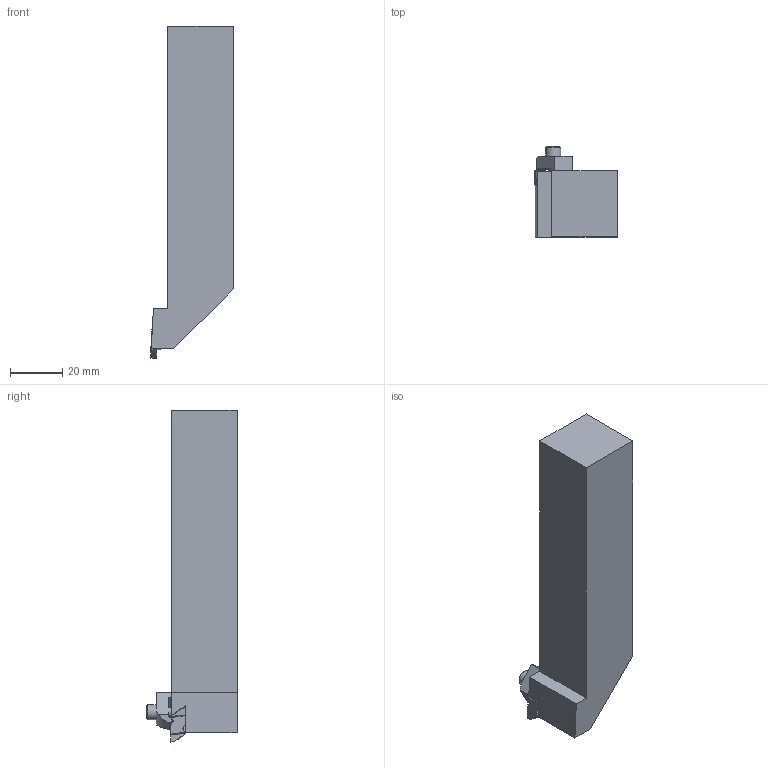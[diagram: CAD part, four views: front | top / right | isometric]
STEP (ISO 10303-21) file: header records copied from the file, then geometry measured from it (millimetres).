
FILE_DESCRIPTION(/* description */ (''),/* implementation_level */ '2;1');
FILE_NAME(/* name */ 'NSR162C_GTM.stp',/* time_stamp */ '2016-09-05T10:25:15+01:00',/* author */ (''),/* organization */ (''),/* preprocessor_version */ 'ST-DEVELOPER v15',/* originating_system */ 'SIEMENS PLM Software NX 9.0',/* authorisation */ '');
FILE_SCHEMA (('AUTOMOTIVE_DESIGN { 1 0 10303 214 3 1 1 1 }'));
Length unit declared in the file: millimetre
Products named in the file (1): NSR162C_GTM
Bounding box: 31.75 x 34.51 x 127 mm (x, y, z)
Volume: 74804.8 mm3; surface area: 14314.5 mm2
Topology: 4 solids, 4 shells, 81 faces, 221 edges, 156 vertices
Faces by surface type: plane 60, cylinder 15, bspline 4, cone 2
Full cylindrical faces by diameter (mm): 3.505 x1, 5.74 x1
Entity records: 2738 total; most frequent: CARTESIAN_POINT 591, ORIENTED_EDGE 420, DIRECTION 416, EDGE_CURVE 210, LINE 162, VECTOR 162, VERTEX_POINT 142, AXIS2_PLACEMENT_3D 127
